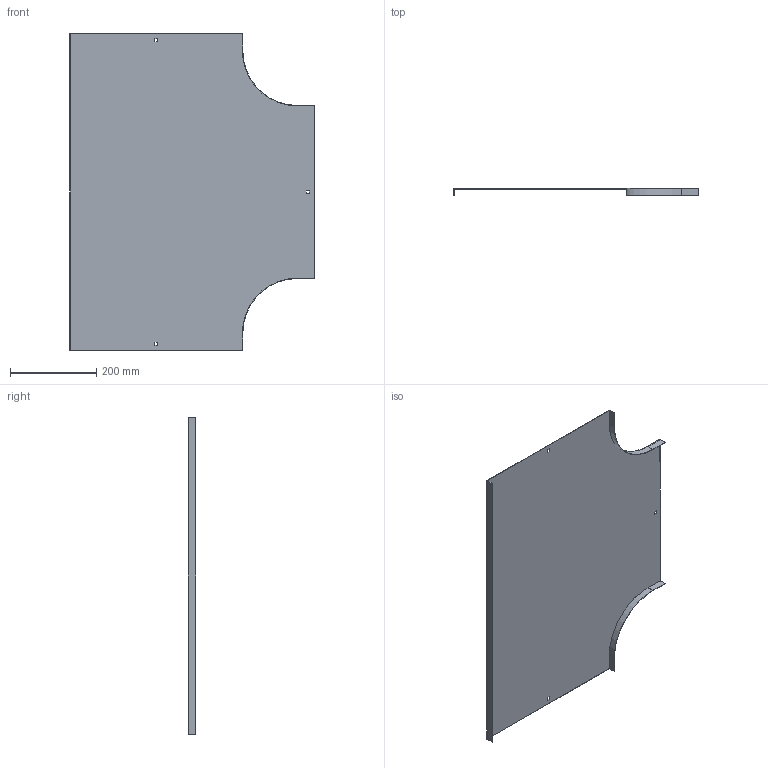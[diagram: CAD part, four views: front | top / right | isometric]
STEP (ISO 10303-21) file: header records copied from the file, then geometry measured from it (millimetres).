
FILE_DESCRIPTION (( 'STEP AP214' ), '1' );
FILE_NAME ('OT_400.step', '2025-07-16T09:18:20', ( '' ), ( '' ), 'SwSTEP 2.0', 'SolidWorks 2023', '' );
FILE_SCHEMA (( 'AUTOMOTIVE_DESIGN' ));
Length unit declared in the file: millimetre
Products named in the file (1): OT_400
Bounding box: 568 x 17 x 734 mm (x, y, z)
Volume: 389150.6 mm3; surface area: 780971.1 mm2
Topology: 1 solids, 1 shells, 34 faces, 96 edges, 64 vertices
Faces by surface type: plane 30, cylinder 4
Entity records: 1123 total; most frequent: CARTESIAN_POINT 195, ORIENTED_EDGE 192, DIRECTION 174, EDGE_CURVE 96, LINE 88, VECTOR 88, VERTEX_POINT 64, AXIS2_PLACEMENT_3D 43
